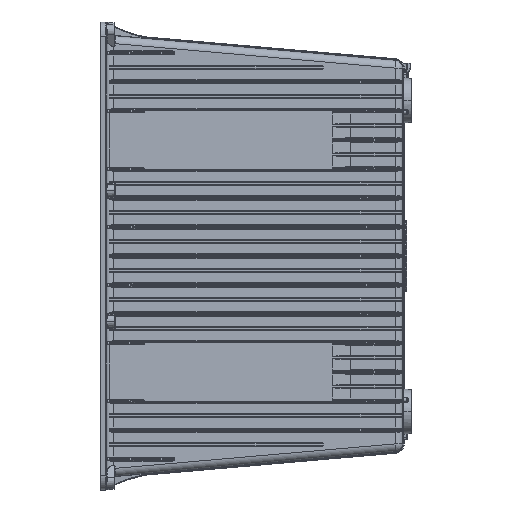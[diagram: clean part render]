
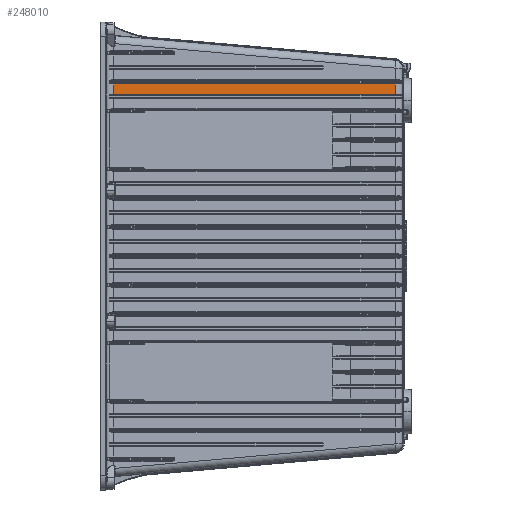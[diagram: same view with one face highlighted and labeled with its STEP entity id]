
A CAD part, left-side view. The second image highlights one B-rep face of the part: STEP entity #248010.
In plain terms, the highlighted planar face has unit normal (-0.996, -0.087, 0).
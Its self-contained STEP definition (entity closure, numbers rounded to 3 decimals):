
#11135=CARTESIAN_POINT('',(-360.946,379.372,
219.421));
#11137=DIRECTION('',(0.,0.,-1.));
#11138=VECTOR('',#11137,13.341);
#11139=CARTESIAN_POINT('',(-360.946,379.372,
219.421));
#11140=LINE('',#11139,#11138);
#71873=CARTESIAN_POINT('',(-329.516,20.128,
206.079));
#71875=CARTESIAN_POINT('',(-329.516,20.128,
219.421));
#73265=DIRECTION('',(-0.087,0.996,0.));
#73266=VECTOR('',#73265,360.615);
#73267=CARTESIAN_POINT('',(-329.516,20.128,
206.079));
#73268=LINE('',#73267,#73266);
#73269=DIRECTION('',(0.087,-0.996,0.));
#73270=VECTOR('',#73269,360.615);
#73271=CARTESIAN_POINT('',(-360.946,379.372,
219.421));
#73272=LINE('',#73271,#73270);
#73273=DIRECTION('',(0.,0.,-1.));
#73274=VECTOR('',#73273,13.341);
#73275=CARTESIAN_POINT('',(-329.516,20.128,
219.421));
#73276=LINE('',#73275,#73274);
#141418=VERTEX_POINT('',#71873);
#141420=CARTESIAN_POINT('',(-360.946,379.372,
206.079));
#141421=VERTEX_POINT('',#141420);
#141436=VERTEX_POINT('',#71875);
#141468=VERTEX_POINT('',#11135);
#247997=CARTESIAN_POINT('',(-328.63,10.,-250.88));
#247998=DIRECTION('',(-0.996,-0.087,0.));
#247999=DIRECTION('',(0.,0.,1.));
#248000=AXIS2_PLACEMENT_3D('',#247997,#247998,#247999);
#248001=PLANE('',#248000);
#248003=ORIENTED_EDGE('',*,*,#248002,.T.);
#248004=ORIENTED_EDGE('',*,*,#150467,.F.);
#248006=ORIENTED_EDGE('',*,*,#248005,.T.);
#248007=ORIENTED_EDGE('',*,*,#247533,.T.);
#248008=EDGE_LOOP('',(#248003,#248004,#248006,#248007));
#248009=FACE_OUTER_BOUND('',#248008,.F.);
#248010=ADVANCED_FACE('',(#248009),#248001,.T.);
#150467=EDGE_CURVE('',#141468,#141421,#11140,.T.);
#247533=EDGE_CURVE('',#141436,#141418,#73276,.T.);
#248002=EDGE_CURVE('',#141418,#141421,#73268,.T.);
#248005=EDGE_CURVE('',#141468,#141436,#73272,.T.);
